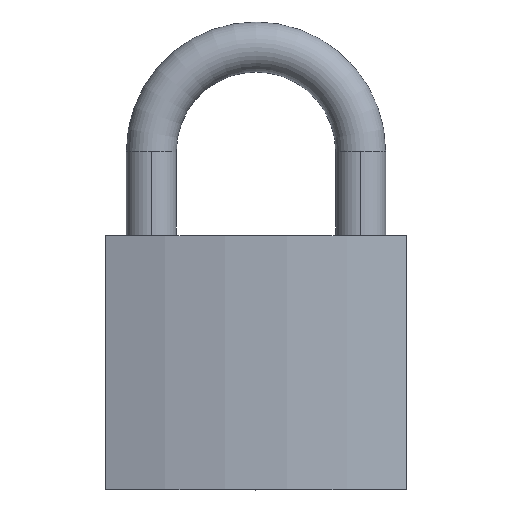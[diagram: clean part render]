
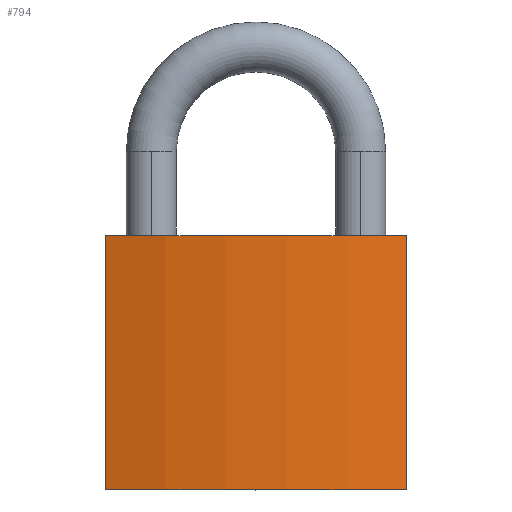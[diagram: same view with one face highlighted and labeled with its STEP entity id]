
A CAD part, top view. The second image highlights one B-rep face of the part: STEP entity #794.
In plain terms, the highlighted cylindrical face has radius 63.26 mm (diameter 126.521 mm), a partial arc.
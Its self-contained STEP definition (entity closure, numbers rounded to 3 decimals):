
#50 = CARTESIAN_POINT ( 'NONE',  ( 19.25, 32.5, 3.6 ) ) ;
#61 = CARTESIAN_POINT ( 'NONE',  ( 19.25, 0., 3.6 ) ) ;
#73 = CARTESIAN_POINT ( 'NONE',  ( -19.25, 32.5, 3.6 ) ) ;
#90 = CARTESIAN_POINT ( 'NONE',  ( 0., 32.5, -56.66 ) ) ;
#94 = DIRECTION ( 'NONE',  ( 0., 0., -1. ) ) ;
#96 = DIRECTION ( 'NONE',  ( 0., -1., 0. ) ) ;
#111 = CARTESIAN_POINT ( 'NONE',  ( -19.25, 0., 3.6 ) ) ;
#136 = CIRCLE ( 'NONE', #742, 63.26 ) ;
#253 = CIRCLE ( 'NONE', #739, 63.26 ) ;
#254 = LINE ( 'NONE', #544, #255 ) ;
#255 = VECTOR ( 'NONE', #543, 1000. ) ;
#260 = VECTOR ( 'NONE', #556, 1000. ) ;
#262 = LINE ( 'NONE', #553, #260 ) ;
#269 = CYLINDRICAL_SURFACE ( 'NONE', #786, 63.26 ) ;
#272 = FACE_OUTER_BOUND ( 'NONE', #466, .T. ) ;
#334 = ORIENTED_EDGE ( 'NONE', *, *, #864, .T. ) ;
#343 = ORIENTED_EDGE ( 'NONE', *, *, #874, .F. ) ;
#344 = ORIENTED_EDGE ( 'NONE', *, *, #869, .F. ) ;
#346 = ORIENTED_EDGE ( 'NONE', *, *, #875, .T. ) ;
#431 = VERTEX_POINT ( 'NONE', #61 ) ;
#435 = VERTEX_POINT ( 'NONE', #50 ) ;
#449 = VERTEX_POINT ( 'NONE', #73 ) ;
#457 = VERTEX_POINT ( 'NONE', #111 ) ;
#466 = EDGE_LOOP ( 'NONE', ( #334, #343, #344, #346 ) ) ;
#543 = DIRECTION ( 'NONE',  ( 0., -1., 0. ) ) ;
#544 = CARTESIAN_POINT ( 'NONE',  ( -19.25, 32.5, 3.6 ) ) ;
#553 = CARTESIAN_POINT ( 'NONE',  ( 19.25, 32.5, 3.6 ) ) ;
#554 = DIRECTION ( 'NONE',  ( 0., 0., 1. ) ) ;
#555 = DIRECTION ( 'NONE',  ( 0., 1., 0. ) ) ;
#556 = DIRECTION ( 'NONE',  ( 0., -1., 0. ) ) ;
#557 = CARTESIAN_POINT ( 'NONE',  ( 0., 32.5, -56.66 ) ) ;
#585 = DIRECTION ( 'NONE',  ( 0., 0., 1. ) ) ;
#586 = DIRECTION ( 'NONE',  ( 0., 1., 0. ) ) ;
#587 = CARTESIAN_POINT ( 'NONE',  ( 0., 0., -56.66 ) ) ;
#739 = AXIS2_PLACEMENT_3D ( 'NONE', #557, #555, #554 ) ;
#742 = AXIS2_PLACEMENT_3D ( 'NONE', #587, #586, #585 ) ;
#786 = AXIS2_PLACEMENT_3D ( 'NONE', #90, #96, #94 ) ;
#794 = ADVANCED_FACE ( 'NONE', ( #272 ), #269, .T. ) ;
#864 = EDGE_CURVE ( 'NONE', #457, #431, #136, .T. ) ;
#869 = EDGE_CURVE ( 'NONE', #449, #435, #253, .T. ) ;
#874 = EDGE_CURVE ( 'NONE', #435, #431, #262, .T. ) ;
#875 = EDGE_CURVE ( 'NONE', #449, #457, #254, .T. ) ;
